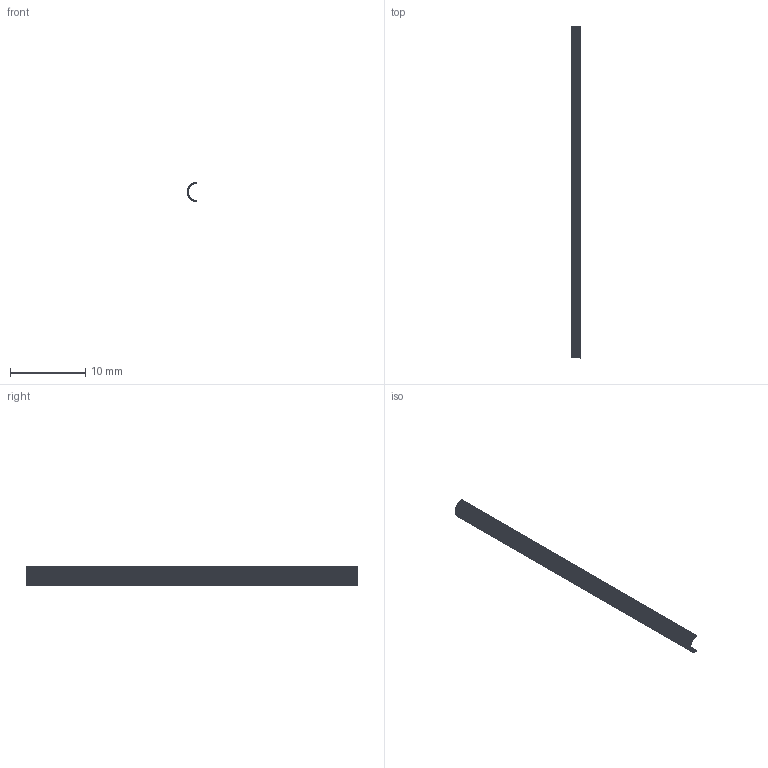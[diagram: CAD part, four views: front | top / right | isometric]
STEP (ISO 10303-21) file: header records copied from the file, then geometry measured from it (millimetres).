
FILE_DESCRIPTION(('Open CASCADE Model'),'2;1');
FILE_NAME('Open CASCADE Shape Model','2026-10-04T02:31:42',('Author'),( 'Open CASCADE'),'Open CASCADE STEP processor 8.0','Open CASCADE 8.0' ,'Unknown');
FILE_SCHEMA(('AUTOMOTIVE_DESIGN { 1 0 10303 214 1 1 1 1 }'));
Length unit declared in the file: millimetre
Products named in the file (1): Open CASCADE STEP translator 8.0 292
Bounding box: 1.27 x 44 x 2.55 mm (x, y, z)
Volume: 24.9 mm3; surface area: 346.1 mm2
Topology: 1 solids, 1 shells, 364 faces, 1086 edges, 724 vertices
Faces by surface type: plane 364
Entity records: 26098 total; most frequent: CARTESIAN_POINT 4347, DIRECTION 3988, LINE 3258, VECTOR 3258, ORIENTED_EDGE 2172, PCURVE 2172, DEFINITIONAL_REPRESENTATION 2172, EDGE_CURVE 1086
